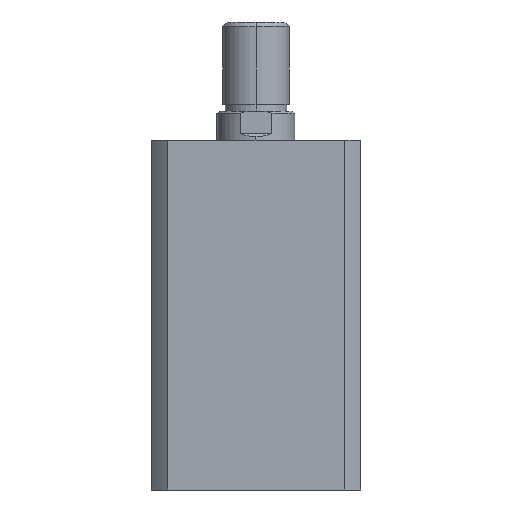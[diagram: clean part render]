
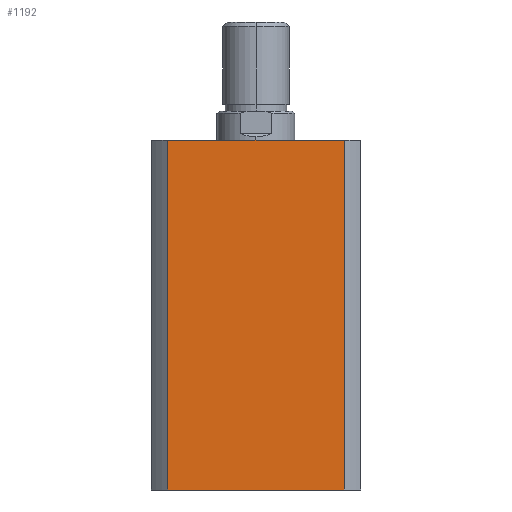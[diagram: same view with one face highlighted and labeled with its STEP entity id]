
A CAD part, left-side view. The second image highlights one B-rep face of the part: STEP entity #1192.
In plain terms, the highlighted planar face has unit normal (-1, 0, 0).
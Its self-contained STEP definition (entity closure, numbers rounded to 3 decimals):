
#436 = DIRECTION ( 'NONE',  ( 0., 0., -1. ) ) ;
#443 = CARTESIAN_POINT ( 'NONE',  ( -47., 39.664, 157. ) ) ;
#445 = CARTESIAN_POINT ( 'NONE',  ( -47., 0., 0. ) ) ;
#450 = DIRECTION ( 'NONE',  ( 0., -1., 0. ) ) ;
#451 = CARTESIAN_POINT ( 'NONE',  ( -47., -39.664, 157. ) ) ;
#453 = DIRECTION ( 'NONE',  ( 0., 0., -1. ) ) ;
#755 = VERTEX_POINT ( 'NONE', #3124 ) ;
#756 = VERTEX_POINT ( 'NONE', #3122 ) ;
#783 = VERTEX_POINT ( 'NONE', #2985 ) ;
#784 = VERTEX_POINT ( 'NONE', #3019 ) ;
#1192 = ADVANCED_FACE ( 'NONE', ( #4488 ), #1437, .F. ) ;
#1249 = DIRECTION ( 'NONE',  ( 0., -1., 0. ) ) ;
#1253 = CARTESIAN_POINT ( 'NONE',  ( -47., 0., 157. ) ) ;
#1432 = CARTESIAN_POINT ( 'NONE',  ( -47., 0., 157. ) ) ;
#1437 = PLANE ( 'NONE',  #5142 ) ;
#1440 = DIRECTION ( 'NONE',  ( 1., 0., 0. ) ) ;
#1441 = DIRECTION ( 'NONE',  ( 0., 0., -1. ) ) ;
#2960 = EDGE_LOOP ( 'NONE', ( #4264, #4276, #4267, #4252 ) ) ;
#2985 = CARTESIAN_POINT ( 'NONE',  ( -47., 39.664, 0. ) ) ;
#3019 = CARTESIAN_POINT ( 'NONE',  ( -47., -39.664, 0. ) ) ;
#3122 = CARTESIAN_POINT ( 'NONE',  ( -47., -39.664, 157. ) ) ;
#3124 = CARTESIAN_POINT ( 'NONE',  ( -47., 39.664, 157. ) ) ;
#3791 = EDGE_CURVE ( 'NONE', #755, #756, #4526, .T. ) ;
#3824 = EDGE_CURVE ( 'NONE', #755, #783, #4568, .T. ) ;
#3825 = EDGE_CURVE ( 'NONE', #783, #784, #4566, .T. ) ;
#3826 = EDGE_CURVE ( 'NONE', #756, #784, #4571, .T. ) ;
#4252 = ORIENTED_EDGE ( 'NONE', *, *, #3824, .T. ) ;
#4264 = ORIENTED_EDGE ( 'NONE', *, *, #3825, .T. ) ;
#4267 = ORIENTED_EDGE ( 'NONE', *, *, #3791, .F. ) ;
#4276 = ORIENTED_EDGE ( 'NONE', *, *, #3826, .F. ) ;
#4488 = FACE_OUTER_BOUND ( 'NONE', #2960, .T. ) ;
#4526 = LINE ( 'NONE', #1253, #4528 ) ;
#4528 = VECTOR ( 'NONE', #1249, 1000. ) ;
#4566 = LINE ( 'NONE', #445, #4572 ) ;
#4568 = LINE ( 'NONE', #443, #4570 ) ;
#4570 = VECTOR ( 'NONE', #436, 1000. ) ;
#4571 = LINE ( 'NONE', #451, #4574 ) ;
#4572 = VECTOR ( 'NONE', #450, 1000. ) ;
#4574 = VECTOR ( 'NONE', #453, 1000. ) ;
#5142 = AXIS2_PLACEMENT_3D ( 'NONE', #1432, #1440, #1441 ) ;
